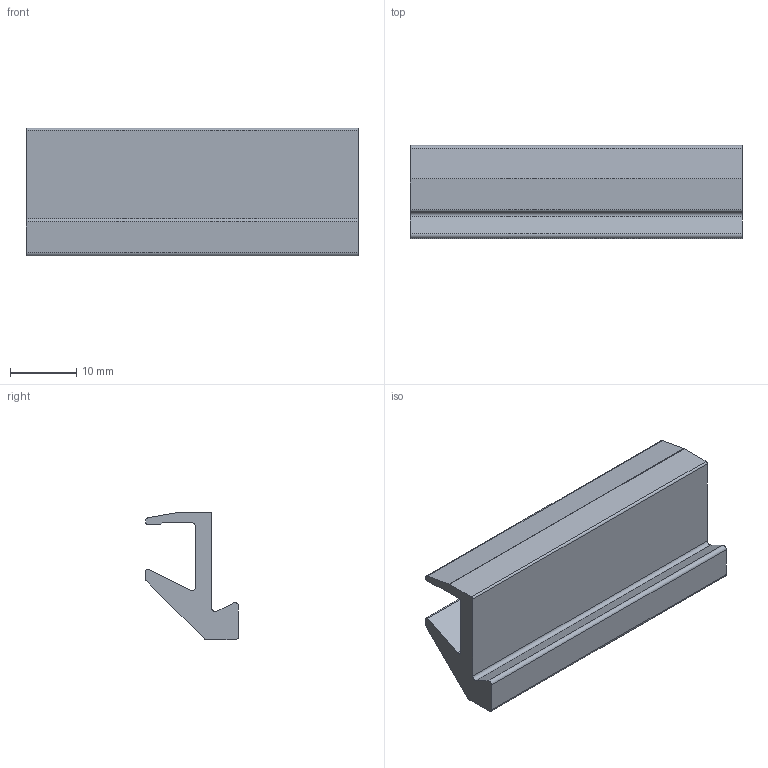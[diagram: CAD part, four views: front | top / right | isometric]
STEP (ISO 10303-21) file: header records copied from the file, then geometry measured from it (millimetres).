
FILE_DESCRIPTION(('STEP AP214'),'1');
FILE_NAME('R02F-.stp','2017-07-27T05:55:41',(' '),(' '),'Spatial InterOp 3D',' ',' ');
FILE_SCHEMA(('automotive_design'));
Length unit declared in the file: millimetre
Products named in the file (1): R02F-
Bounding box: 50 x 14 x 19.2 mm (x, y, z)
Volume: 5218.8 mm3; surface area: 4191.8 mm2
Topology: 1 solids, 1 shells, 28 faces, 78 edges, 52 vertices
Faces by surface type: plane 16, cylinder 12
Entity records: 1146 total; most frequent: DIRECTION 160, CARTESIAN_POINT 159, ORIENTED_EDGE 156, EDGE_CURVE 78, LINE 54, VECTOR 54, AXIS2_PLACEMENT_3D 53, VERTEX_POINT 52
